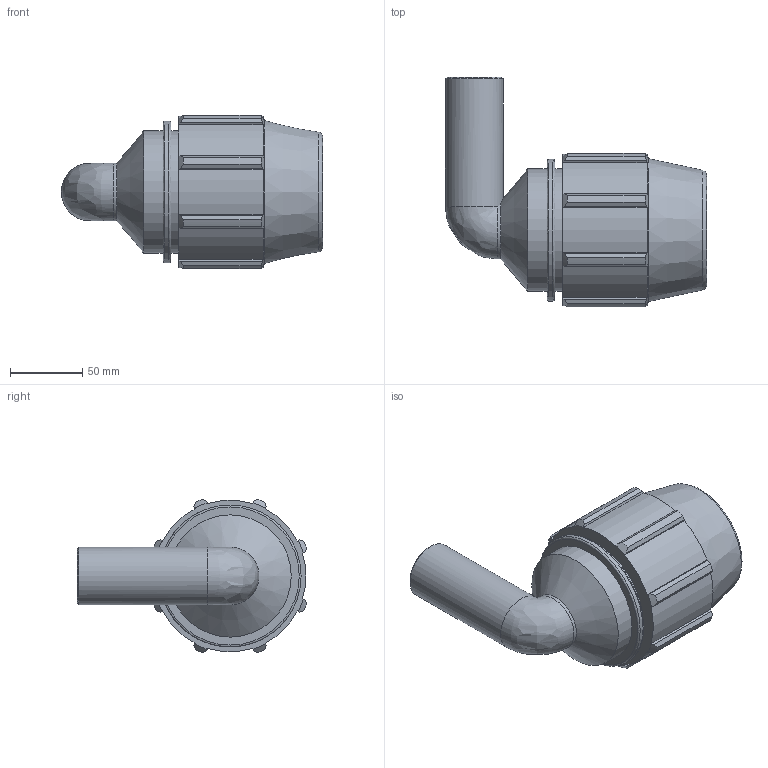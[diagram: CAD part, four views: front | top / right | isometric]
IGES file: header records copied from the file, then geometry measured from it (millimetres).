
Global section: file name: 073500063040_183500063040_0735060630400A.ipt; native system: Autodesk Inventor 2015; preprocessor: unknown; author: KIM; date: 20170608.042245; units: millimetre
Bounding box: 181 x 159.16 x 106.32 mm (x, y, z)
Volume: 704948.1 mm3; surface area: 109262 mm2
Topology: 1 solids, 1 shells, 82 faces, 231 edges, 154 vertices
Faces by surface type: plane 39, cylinder 21, cone 12, revolution 9, bspline 1
Full cylindrical faces by diameter (mm): 40 x1, 84.75 x2, 98.31 x1
